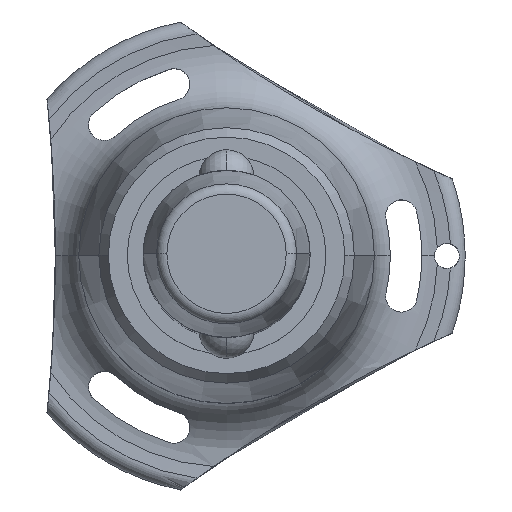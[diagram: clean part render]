
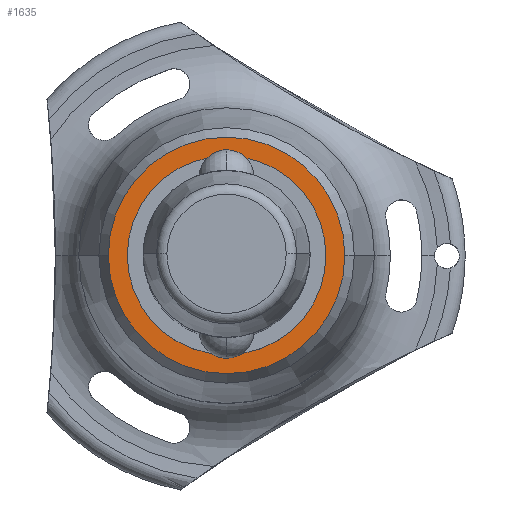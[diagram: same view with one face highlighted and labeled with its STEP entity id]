
A CAD part, top view. The second image highlights one B-rep face of the part: STEP entity #1635.
In plain terms, the highlighted planar face has unit normal (0, 0, 1).
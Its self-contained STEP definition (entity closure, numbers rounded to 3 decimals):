
#79 = ORIENTED_EDGE ( 'NONE', *, *, #2815, .T. ) ;
#122 = DIRECTION ( 'NONE',  ( 1., 0., 0. ) ) ;
#190 = DIRECTION ( 'NONE',  ( -1., 0., 0. ) ) ;
#284 = DIRECTION ( 'NONE',  ( 0., 0., -1. ) ) ;
#312 = CARTESIAN_POINT ( 'NONE',  ( 0., 0., -91.25 ) ) ;
#360 = PLANE ( 'NONE',  #1153 ) ;
#376 = CARTESIAN_POINT ( 'NONE',  ( -14.154, 0., -91.25 ) ) ;
#391 = AXIS2_PLACEMENT_3D ( 'NONE', #2523, #2481, #487 ) ;
#425 = CARTESIAN_POINT ( 'NONE',  ( 0., 0., -91.25 ) ) ;
#427 = EDGE_CURVE ( 'NONE', #740, #522, #1891, .T. ) ;
#487 = DIRECTION ( 'NONE',  ( -1., 0., 0. ) ) ;
#522 = VERTEX_POINT ( 'NONE', #563 ) ;
#535 = EDGE_CURVE ( 'NONE', #971, #1167, #1991, .T. ) ;
#549 = FACE_BOUND ( 'NONE', #1974, .T. ) ;
#563 = CARTESIAN_POINT ( 'NONE',  ( -11.889, 0., -91.25 ) ) ;
#695 = DIRECTION ( 'NONE',  ( 0., 0., -1. ) ) ;
#736 = DIRECTION ( 'NONE',  ( -1., 0., 0. ) ) ;
#740 = VERTEX_POINT ( 'NONE', #2241 ) ;
#971 = VERTEX_POINT ( 'NONE', #1036 ) ;
#1013 = DIRECTION ( 'NONE',  ( -1., 0., 0. ) ) ;
#1036 = CARTESIAN_POINT ( 'NONE',  ( 14.154, 0., -91.25 ) ) ;
#1103 = AXIS2_PLACEMENT_3D ( 'NONE', #1651, #284, #1013 ) ;
#1153 = AXIS2_PLACEMENT_3D ( 'NONE', #1730, #1447, #122 ) ;
#1167 = VERTEX_POINT ( 'NONE', #376 ) ;
#1277 = ORIENTED_EDGE ( 'NONE', *, *, #427, .T. ) ;
#1447 = DIRECTION ( 'NONE',  ( 0., 0., 1. ) ) ;
#1572 = ORIENTED_EDGE ( 'NONE', *, *, #535, .F. ) ;
#1610 = CIRCLE ( 'NONE', #2235, 11.889 ) ;
#1635 = ADVANCED_FACE ( 'NONE', ( #549, #2391 ), #360, .T. ) ;
#1651 = CARTESIAN_POINT ( 'NONE',  ( 0., 0., -91.25 ) ) ;
#1715 = AXIS2_PLACEMENT_3D ( 'NONE', #425, #695, #190 ) ;
#1730 = CARTESIAN_POINT ( 'NONE',  ( 0., 11.889, -91.25 ) ) ;
#1883 = EDGE_CURVE ( 'NONE', #1167, #971, #2859, .T. ) ;
#1890 = ORIENTED_EDGE ( 'NONE', *, *, #1883, .F. ) ;
#1891 = CIRCLE ( 'NONE', #391, 11.889 ) ;
#1974 = EDGE_LOOP ( 'NONE', ( #79, #1277 ) ) ;
#1991 = CIRCLE ( 'NONE', #1103, 14.154 ) ;
#2104 = EDGE_LOOP ( 'NONE', ( #1890, #1572 ) ) ;
#2235 = AXIS2_PLACEMENT_3D ( 'NONE', #312, #2536, #736 ) ;
#2241 = CARTESIAN_POINT ( 'NONE',  ( 11.889, 0., -91.25 ) ) ;
#2391 = FACE_OUTER_BOUND ( 'NONE', #2104, .T. ) ;
#2481 = DIRECTION ( 'NONE',  ( 0., 0., -1. ) ) ;
#2523 = CARTESIAN_POINT ( 'NONE',  ( 0., 0., -91.25 ) ) ;
#2536 = DIRECTION ( 'NONE',  ( 0., 0., -1. ) ) ;
#2815 = EDGE_CURVE ( 'NONE', #522, #740, #1610, .T. ) ;
#2859 = CIRCLE ( 'NONE', #1715, 14.154 ) ;
